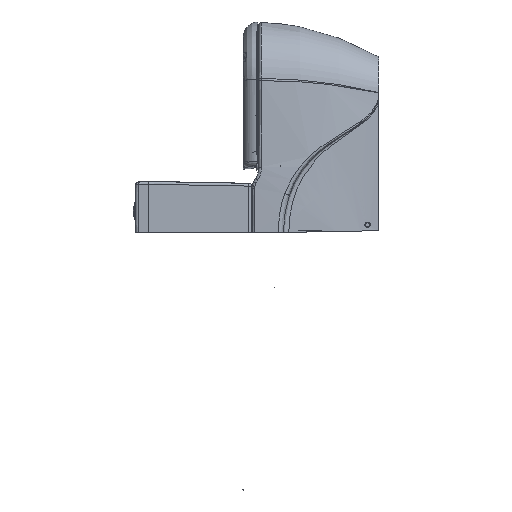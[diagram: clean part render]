
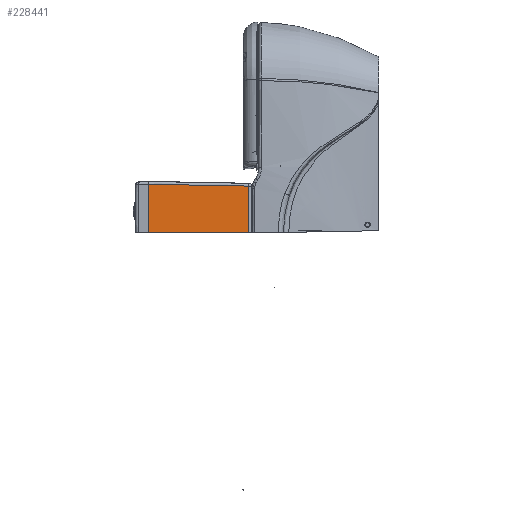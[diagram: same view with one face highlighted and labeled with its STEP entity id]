
A CAD part, left-side view. The second image highlights one B-rep face of the part: STEP entity #228441.
In plain terms, the highlighted free-form (B-spline) face has degree [3, 3] with [5, 4] control points.
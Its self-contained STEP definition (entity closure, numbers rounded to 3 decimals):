
#109 = CARTESIAN_POINT ( 'NONE',  ( -212.037, 217.421, -200.34 ) ) ;
#1301 = CARTESIAN_POINT ( 'NONE',  ( -211.19, 156.234, -201.458 ) ) ;
#11550 = B_SPLINE_CURVE_WITH_KNOTS ( 'NONE', 3,
 ( #183733, #165615, #167989, #164428, #1301, #74984, #109, #147458, #55656, #37549 ),
 .UNSPECIFIED., .F., .F.,
 ( 4, 3, 3, 4 ),
 ( 0., 0.092, 0.184, 0.351 ),
 .UNSPECIFIED. ) ;
#13831 = CARTESIAN_POINT ( 'NONE',  ( -209.364, 24., -190.611 ) ) ;
#18555 = CARTESIAN_POINT ( 'NONE',  ( -211.213, 144.333, -338.523 ) ) ;
#20379 = CARTESIAN_POINT ( 'NONE',  ( -214.36, 385., -197.277 ) ) ;
#33127 = CARTESIAN_POINT ( 'NONE',  ( -214.544, 385., -337.784 ) ) ;
#34316 = CARTESIAN_POINT ( 'NONE',  ( -212.976, 264.667, -367.489 ) ) ;
#36659 = CARTESIAN_POINT ( 'NONE',  ( -209.384, 24., -279.925 ) ) ;
#37549 = CARTESIAN_POINT ( 'NONE',  ( -214.36, 385., -197.277 ) ) ;
#45606 = ORIENTED_EDGE ( 'NONE', *, *, #175760, .F. ) ;
#45907 = ORIENTED_EDGE ( 'NONE', *, *, #209972, .T. ) ;
#50071 = CARTESIAN_POINT ( 'NONE',  ( -209.642, 24., -367.5 ) ) ;
#52437 = CARTESIAN_POINT ( 'NONE',  ( -214.341, 385., -215.386 ) ) ;
#53611 = CARTESIAN_POINT ( 'NONE',  ( -212.712, 264.667, -277.697 ) ) ;
#55656 = CARTESIAN_POINT ( 'NONE',  ( -213.586, 329.14, -198.298 ) ) ;
#56313 = CARTESIAN_POINT ( 'NONE',  ( -214.642, 385., -367.483 ) ) ;
#62397 = CARTESIAN_POINT ( 'NONE',  ( -214.544, 385., -337.784 ) ) ;
#62902 = B_SPLINE_SURFACE_WITH_KNOTS ( 'NONE', 3, 3, ( 
 ( #13831, #106805, #124894, #69376 ),
 ( #145417, #237245, #92216, #52437 ),
 ( #36659, #91032, #53611, #110324 ),
 ( #217943, #18555, #74098, #33127 ),
 ( #50071, #107979, #34316, #71737 ) ),
 .UNSPECIFIED., .F., .F., .F.,
 ( 4, 1, 4 ),
 ( 4, 4 ),
 ( 0.852, 0.928, 1. ),
 ( 0., 1. ),
 .UNSPECIFIED. ) ;
#63599 = CARTESIAN_POINT ( 'NONE',  ( -214.347, 385., -224.313 ) ) ;
#69376 = CARTESIAN_POINT ( 'NONE',  ( -214.369, 385., -183.886 ) ) ;
#69974 = EDGE_CURVE ( 'NONE', #177096, #118838, #169075, .T. ) ;
#70246 = DIRECTION ( 'NONE',  ( -0.014, 1., 0. ) ) ;
#71737 = CARTESIAN_POINT ( 'NONE',  ( -214.642, 385., -367.483 ) ) ;
#74098 = CARTESIAN_POINT ( 'NONE',  ( -212.878, 264.667, -338.148 ) ) ;
#74984 = CARTESIAN_POINT ( 'NONE',  ( -211.614, 186.828, -200.899 ) ) ;
#91032 = CARTESIAN_POINT ( 'NONE',  ( -211.048, 144.333, -278.811 ) ) ;
#91566 = CARTESIAN_POINT ( 'NONE',  ( -209.494, 33.861, -203.695 ) ) ;
#92216 = CARTESIAN_POINT ( 'NONE',  ( -212.675, 264.667, -217.248 ) ) ;
#99668 = CARTESIAN_POINT ( 'NONE',  ( -209.494, 33.861, -203.695 ) ) ;
#103295 = ORIENTED_EDGE ( 'NONE', *, *, #116991, .T. ) ;
#106805 = CARTESIAN_POINT ( 'NONE',  ( -211.032, 144.333, -188.369 ) ) ;
#107979 = CARTESIAN_POINT ( 'NONE',  ( -211.309, 144.333, -367.494 ) ) ;
#110324 = CARTESIAN_POINT ( 'NONE',  ( -214.376, 385., -276.583 ) ) ;
#116991 = EDGE_CURVE ( 'NONE', #127682, #118838, #11550, .T. ) ;
#118838 = VERTEX_POINT ( 'NONE', #20379 ) ;
#124894 = CARTESIAN_POINT ( 'NONE',  ( -212.7, 264.667, -186.128 ) ) ;
#127682 = VERTEX_POINT ( 'NONE', #91566 ) ;
#129538 = VECTOR ( 'NONE', #70246, 1000. ) ;
#136084 = CARTESIAN_POINT ( 'NONE',  ( -214.388, 385., -281.047 ) ) ;
#137279 = CARTESIAN_POINT ( 'NONE',  ( -214.36, 385., -197.277 ) ) ;
#145417 = CARTESIAN_POINT ( 'NONE',  ( -209.343, 24., -220.962 ) ) ;
#147458 = CARTESIAN_POINT ( 'NONE',  ( -212.812, 273.281, -199.319 ) ) ;
#155141 = EDGE_LOOP ( 'NONE', ( #45606, #45907, #103295, #189360 ) ) ;
#163233 = LINE ( 'NONE', #216439, #129538 ) ;
#164428 = CARTESIAN_POINT ( 'NONE',  ( -210.766, 125.641, -202.018 ) ) ;
#165615 = CARTESIAN_POINT ( 'NONE',  ( -209.918, 64.455, -203.136 ) ) ;
#167989 = CARTESIAN_POINT ( 'NONE',  ( -210.342, 95.048, -202.577 ) ) ;
#169075 = B_SPLINE_CURVE_WITH_KNOTS ( 'NONE', 3,
 ( #210984, #62397, #136084, #63599, #137279 ),
 .UNSPECIFIED., .F., .F.,
 ( 4, 1, 4 ),
 ( 0., 0.089, 0.17 ),
 .UNSPECIFIED. ) ;
#172165 = CARTESIAN_POINT ( 'NONE',  ( -209.478, 33.862, -258.296 ) ) ;
#175760 = EDGE_CURVE ( 'NONE', #202040, #177096, #163233, .T. ) ;
#177096 = VERTEX_POINT ( 'NONE', #56313 ) ;
#183733 = CARTESIAN_POINT ( 'NONE',  ( -209.494, 33.861, -203.695 ) ) ;
#184043 = FACE_OUTER_BOUND ( 'NONE', #155141, .T. ) ;
#189360 = ORIENTED_EDGE ( 'NONE', *, *, #69974, .F. ) ;
#202040 = VERTEX_POINT ( 'NONE', #207436 ) ;
#207206 = CARTESIAN_POINT ( 'NONE',  ( -209.598, 33.862, -312.898 ) ) ;
#207436 = CARTESIAN_POINT ( 'NONE',  ( -209.779, 33.862, -367.5 ) ) ;
#209972 = EDGE_CURVE ( 'NONE', #202040, #127682, #233117, .T. ) ;
#210984 = CARTESIAN_POINT ( 'NONE',  ( -214.642, 385., -367.483 ) ) ;
#216439 = CARTESIAN_POINT ( 'NONE',  ( -212.142, 204.5, -367.492 ) ) ;
#217943 = CARTESIAN_POINT ( 'NONE',  ( -209.547, 24., -338.887 ) ) ;
#226546 = CARTESIAN_POINT ( 'NONE',  ( -209.779, 33.862, -367.5 ) ) ;
#228441 = ADVANCED_FACE ( 'NONE', ( #184043 ), #62902, .F. ) ;
#233117 = B_SPLINE_CURVE_WITH_KNOTS ( 'NONE', 3,
 ( #226546, #207206, #172165, #99668 ),
 .UNSPECIFIED., .F., .F.,
 ( 4, 4 ),
 ( 0., 0.164 ),
 .UNSPECIFIED. ) ;
#237245 = CARTESIAN_POINT ( 'NONE',  ( -211.009, 144.333, -219.099 ) ) ;
